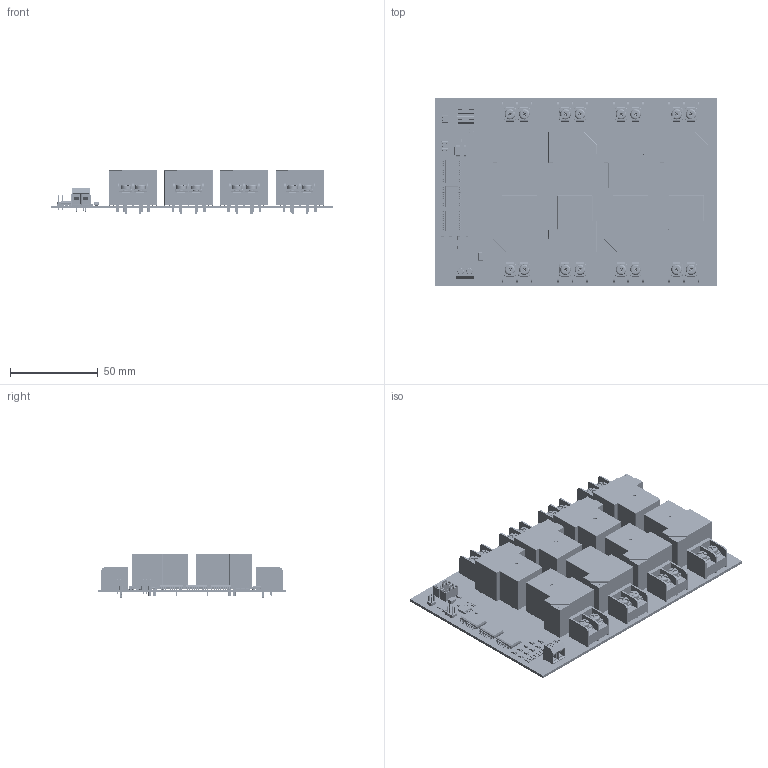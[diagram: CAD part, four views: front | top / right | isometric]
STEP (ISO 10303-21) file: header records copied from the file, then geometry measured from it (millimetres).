
FILE_DESCRIPTION(('Open CASCADE Model'),'2;1');
FILE_NAME('Open CASCADE Shape Model','2016-07-11T11:08:17',('Author'),( 'Open CASCADE'),'Open CASCADE STEP processor 6.2','Open CASCADE 6.2' ,'Unknown');
FILE_SCHEMA(('AUTOMOTIVE_DESIGN { 1 0 10303 214 1 1 1 1 }'));
Length unit declared in the file: millimetre
Products named in the file (82): PCB; Board; U4; ULN2803ADWR; U3; SN74HC240DWR; U2; PCF8574APWR; U1; R14; MCR03; R16; R15; R13; R12; R11; R10; R9; MCR18; R8; R7; R6; R5; R4; R3; R2; R1; Q1; FDN306P; K8; CMP7A-R; K7; K6; K5; K4; K3; K2; K1; J13; DT-39-B01W-02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
Assembly tree (127 placements, depth 4):
  PCB
    Board
    U4
      ULN2803ADWR
    U3
      SN74HC240DWR
    U2
      PCF8574APWR
    U1
      ULN2803ADWR
    R14
      MCR03
    R16
      MCR03
    R15
      MCR03
    R13
      MCR03
    R12
      MCR03
    R11
      MCR03
    R10
      MCR03
    R9
      MCR18
    R8
      MCR18
    R7
      MCR18
    R6
      MCR18
    R5
      MCR18
    R4
      MCR18
    R3
      MCR18
    R2
      MCR18
    R1
      MCR18
    Q1
      FDN306P
    K8
      CMP7A-R
    K7
      CMP7A-R
    K6
      CMP7A-R
    K5
      CMP7A-R
    K4
      CMP7A-R
    K3
      CMP7A-R
    K2
      CMP7A-R
    K1
      CMP7A-R
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Bounding box: 160 x 107 x 25.4 mm (x, y, z)
Volume: 165236.7 mm3; surface area: 100740.3 mm2
Topology: 126 solids, 126 shells, 13369 faces, 34642 edges, 21302 vertices
Faces by surface type: plane 8793, cylinder 3320, torus 732, sphere 348, bspline 176
Entity records: 344231 total; most frequent: CARTESIAN_POINT 149598, DIRECTION 28688, ORIENTED_EDGE 18298, PCURVE 18298, DEFINITIONAL_REPRESENTATION 18298, LINE 13784, VECTOR 13784, EDGE_CURVE 9149
